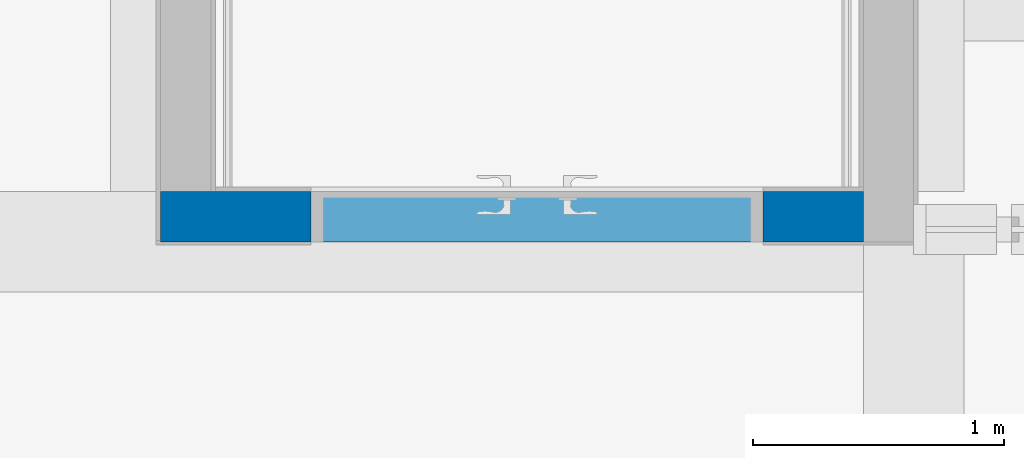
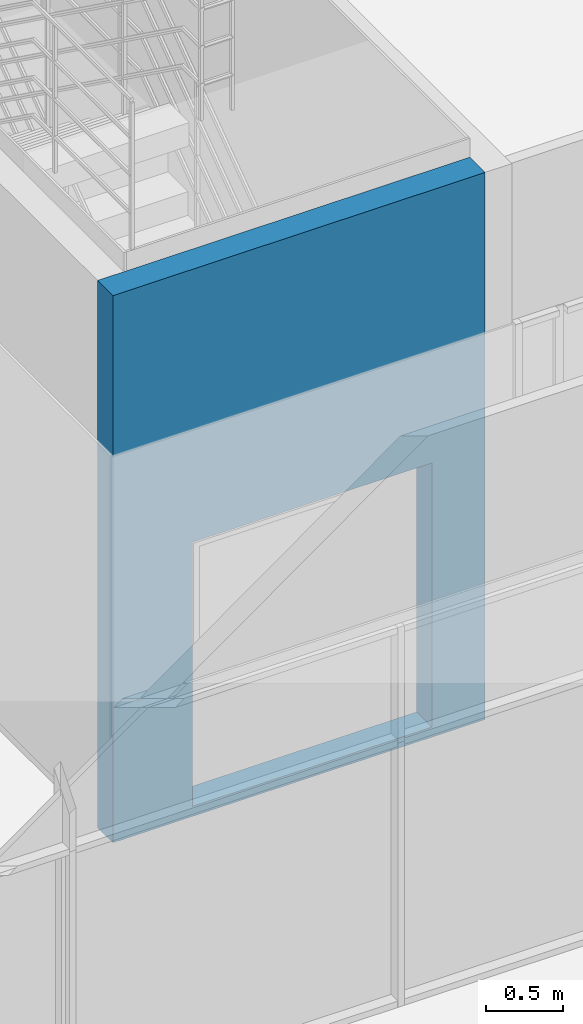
# One storey, part 48 of 74: 1 wall, 2 openings.
"""IFC2X3 building model written with IfcOpenShell, lengths in millimetres."""

from ifc_helpers import new_model, entity, si_unit, converted_unit, derived_unit, direction, frame, frame_2d, origin, place, context, subcontext, project, spatial, polyline, rectangle, extrude, clip, bounded_halfspace, material, layer, layer_set, layer_usage, type_object, element, save


model = new_model("IFC2X3")

# Units and contexts
model_context = context("Model", 3, precision=0.01, world=origin(), true_north=direction((6.123031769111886e-17, 1.0)))
body_context = subcontext(model_context, "Body", "Model", "MODEL_VIEW")
ifc_project = project(units=[si_unit("LENGTHUNIT", "METRE", prefix="MILLI"), si_unit("AREAUNIT", "SQUARE_METRE"), si_unit("VOLUMEUNIT", "CUBIC_METRE"), converted_unit("PLANEANGLEUNIT", "DEGREE", entity("IfcRatioMeasure", 0.017453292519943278), si_unit("PLANEANGLEUNIT", "RADIAN"), dimensions=[0, 0, 0, 0, 0, 0, 0]), si_unit("MASSUNIT", "GRAM", prefix="KILO"), derived_unit("MASSDENSITYUNIT", [(si_unit("MASSUNIT", "GRAM", prefix="KILO"), 1), (si_unit("LENGTHUNIT", "METRE"), -3)]), derived_unit("MOMENTOFINERTIAUNIT", [(si_unit("LENGTHUNIT", "METRE"), 4)]), si_unit("TIMEUNIT", "SECOND"), si_unit("FREQUENCYUNIT", "HERTZ"), si_unit("THERMODYNAMICTEMPERATUREUNIT", "DEGREE_CELSIUS"), derived_unit("THERMALTRANSMITTANCEUNIT", [(si_unit("MASSUNIT", "GRAM", prefix="KILO"), 1), (si_unit("THERMODYNAMICTEMPERATUREUNIT", "KELVIN"), -1), (si_unit("TIMEUNIT", "SECOND"), -3)]), derived_unit("VOLUMETRICFLOWRATEUNIT", [(si_unit("LENGTHUNIT", "METRE"), 3), (si_unit("TIMEUNIT", "SECOND"), -1)]), derived_unit("MASSFLOWRATEUNIT", [(si_unit("MASSUNIT", "GRAM", prefix="KILO"), 1), (si_unit("TIMEUNIT", "SECOND"), -1)]), derived_unit("ROTATIONALFREQUENCYUNIT", [(si_unit("TIMEUNIT", "SECOND"), -1)]), si_unit("ELECTRICCURRENTUNIT", "AMPERE"), si_unit("ELECTRICVOLTAGEUNIT", "VOLT"), si_unit("POWERUNIT", "WATT"), si_unit("FORCEUNIT", "NEWTON", prefix="KILO"), si_unit("ILLUMINANCEUNIT", "LUX"), si_unit("LUMINOUSFLUXUNIT", "LUMEN"), si_unit("LUMINOUSINTENSITYUNIT", "CANDELA"), derived_unit("USERDEFINED", [(si_unit("MASSUNIT", "GRAM", prefix="KILO"), -1), (si_unit("LENGTHUNIT", "METRE"), -2), (si_unit("TIMEUNIT", "SECOND"), 3), (si_unit("LUMINOUSFLUXUNIT", "LUMEN"), 1)]), derived_unit("SOUNDPOWERUNIT", [(si_unit("MASSUNIT", "GRAM", prefix="KILO"), 1), (si_unit("LENGTHUNIT", "METRE"), 2), (si_unit("TIMEUNIT", "SECOND"), -3)]), derived_unit("SOUNDPRESSUREUNIT", [(si_unit("MASSUNIT", "GRAM", prefix="KILO"), 1), (si_unit("LENGTHUNIT", "METRE"), -1), (si_unit("TIMEUNIT", "SECOND"), -2)]), derived_unit("LINEARVELOCITYUNIT", [(si_unit("LENGTHUNIT", "METRE"), 1), (si_unit("TIMEUNIT", "SECOND"), -1)]), si_unit("PRESSUREUNIT", "PASCAL"), derived_unit("USERDEFINED", [(si_unit("LENGTHUNIT", "METRE"), -2), (si_unit("MASSUNIT", "GRAM", prefix="KILO"), 1), (si_unit("TIMEUNIT", "SECOND"), -2)]), derived_unit("LINEARFORCEUNIT", [(si_unit("MASSUNIT", "GRAM", prefix="KILO"), 1), (si_unit("LENGTHUNIT", "METRE"), 1), (si_unit("TIMEUNIT", "SECOND"), -2), (si_unit("LENGTHUNIT", "METRE"), -1)]), derived_unit("PLANARFORCEUNIT", [(si_unit("MASSUNIT", "GRAM", prefix="KILO"), 1), (si_unit("LENGTHUNIT", "METRE"), 1), (si_unit("TIMEUNIT", "SECOND"), -2), (si_unit("LENGTHUNIT", "METRE"), -2)])], contexts=[model_context])

# Site, building, storey
site_placement = place(None, frame((-14167.972527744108, -657.2125860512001, 0.0)))
site = spatial("IfcSite", under=ifc_project, at=site_placement, Name="Default", CompositionType="ELEMENT")
building_placement = place(site_placement, origin())
building = spatial("IfcBuilding", under=site, at=building_placement, Name="Sample Building", CompositionType="ELEMENT")
storey_placement = place(building_placement, frame((0.0, 0.0, 4800.0)))
storey = spatial("IfcBuildingStorey", under=building, at=storey_placement, Name="지상 2층", CompositionType="ELEMENT", Elevation=4800.000000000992)

# Wall, openings
ifc_material = material(Name="KBIMS-콘크리트")
ifc_layer = layer(ifc_material, 200.0)
ifc_layer_set = layer_set([ifc_layer], Name="기본 벽:WA111-철근콘크리트구조 벽 200mm_CW1")
ifc_layer_usage = layer_usage(ifc_layer_set, "AXIS2", "NEGATIVE", 100.0)
wall_type = type_object("IfcWallType", Name="기본 벽:WA111-철근콘크리트구조 벽 200mm_CW1", PredefinedType="STANDARD", material=ifc_layer_set)
wall_placement = place(storey_placement, frame((37967.96379814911, 15657.212295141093, -1.9340006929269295e-09)))
wall = element("IfcWallStandardCase", 1, at=wall_placement, inside=storey, type_object=wall_type, material=ifc_layer_usage, Name="기본 벽:WA111-철근콘크리트구조 벽 200mm_CW1", ObjectType="기본 벽:WA111-철근콘크리트구조 벽 200mm_CW1", context=body_context, shape_type="Clipping", body=[
    clip(extrude(rectangle(XDim=2800.000000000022, YDim=200.0, at=frame_2d((1400.000000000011, -1.0871303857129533e-12), x_axis=(-1.0, 0.0))), origin(), (0.0, 0.0, 1.0), 4350.000000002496), bounded_halfspace(frame((0.0, -100.0, 4350.0), z_axis=(0.0, 0.0, -1.0), x_axis=(1.0, 0.0, 0.0)), True, frame((0.0, -100.0, 4350.0), z_axis=(0.0, 0.0, -1.0), x_axis=(1.0, 0.0, 0.0)), polyline([(0.0, 0.0), (0.0, -60960.0), (60960.0, -60960.0), (853440.0, -60960.0), (853440.0, 0.0), (0.0, 0.0)]))),
])
opening_1_placement = place(wall_placement, origin())
element("IfcOpeningElement", 2, at=opening_1_placement, cuts=wall, Name="기본 벽:WA111-철근콘크리트구조 벽 200mm_CW1", ObjectType="Opening", context=body_context, shape_type="SweptSolid", body=[
    extrude(rectangle(XDim=3020.000000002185, YDim=2818.0086929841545, at=frame_2d((0.0, 0.0), x_axis=(0.0, 1.0))), frame((4409.004346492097, -252.40000000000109, 1590.0), z_axis=(0.0, 1.0, 0.0), x_axis=(-1.0, 0.0, 0.0)), (0.0, 0.0, 1.0), 504.8),
])
opening_2_placement = place(wall_placement, frame((600.0, -100.0, 80.0)))
element("IfcOpeningElement", 3, at=opening_2_placement, cuts=wall, Name="DR121-쌍여닫이문(철재, 방화문):DR121-쌍여닫이문(철재, 방화문) 1800x2100mm:1", ObjectType="Opening", context=body_context, shape_type="SweptSolid", body=[
    extrude(rectangle(XDim=2099.999999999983, YDim=1799.9999999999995, at=frame_2d((1049.999999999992, 899.9999999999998), x_axis=(1.0, 0.0))), frame((0.0, 0.0, 0.0), z_axis=(0.0, 1.0, 0.0), x_axis=(0.0, 0.0, 1.0)), (0.0, 0.0, 1.0), 200.0),
])

save(model, "model.ifc")
